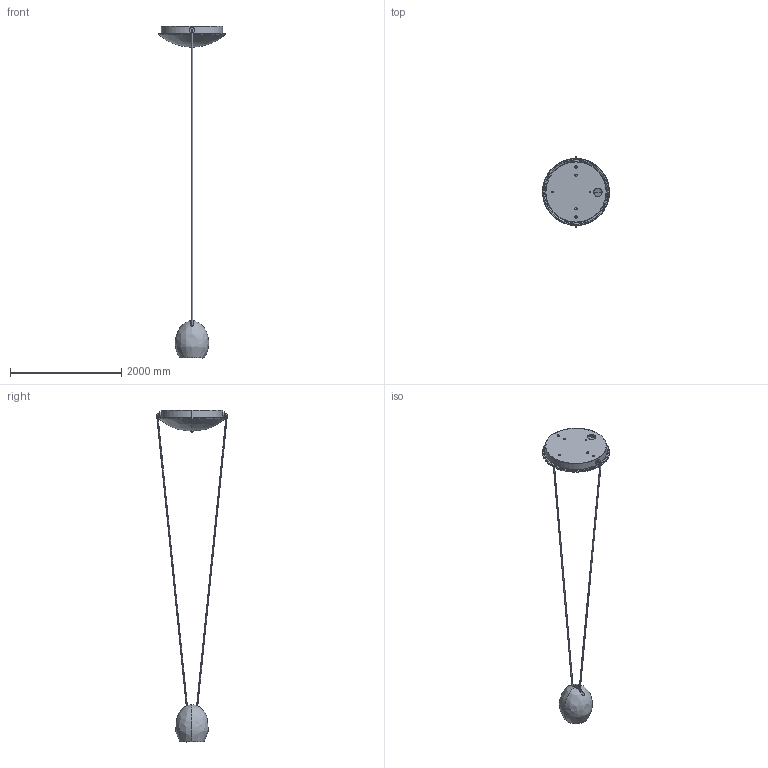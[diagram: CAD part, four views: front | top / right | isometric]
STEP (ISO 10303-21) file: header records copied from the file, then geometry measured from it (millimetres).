
FILE_DESCRIPTION(/* description */ (''),/* implementation_level */ '2;1');
FILE_NAME(/* name */ '1507',/* time_stamp */ '2022-01-18T15:15:28+01:00',/* author */ (''),/* organization */ (''),/* preprocessor_version */ 'ST-DEVELOPER v16.5',/* originating_system */ '',/* authorisation */ '');
FILE_SCHEMA (('CONFIG_CONTROL_DESIGN'));
Length unit declared in the file: centimetre
Products named in the file (1): Document
Bounding box: 1203.88 x 1266.66 x 5959.06 mm (x, y, z)
Volume: 144719910.8 mm3; surface area: 8394624.2 mm2
Topology: 10 solids, 10 shells, 145 faces, 331 edges, 215 vertices
Faces by surface type: cylinder 74, plane 48, bspline 23
Entity records: 4550 total; most frequent: CARTESIAN_POINT 2212, ORIENTED_EDGE 658, EDGE_CURVE 329, VERTEX_POINT 215, EDGE_LOOP 184, B_SPLINE_CURVE_WITH_KNOTS 147, ADVANCED_FACE 145, FACE_OUTER_BOUND 145
